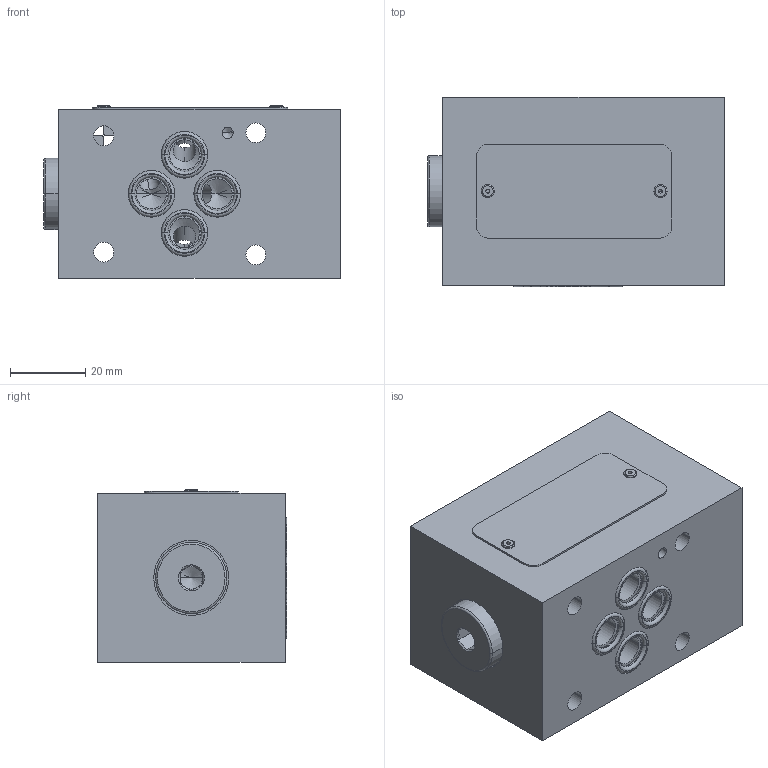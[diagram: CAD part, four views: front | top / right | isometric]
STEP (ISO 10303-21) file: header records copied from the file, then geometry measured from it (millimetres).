
FILE_DESCRIPTION((''),'2;1');
FILE_NAME('1000012769_ASM','2023-10-12T',('l.soukupova'),(''),'PRO/ENGINEER BY PARAMETRIC TECHNOLOGY CORPORATION, 2015440','PRO/ENGINEER BY PARAMETRIC TECHNOLOGY CORPORATION, 2015440','');
FILE_SCHEMA(('AUTOMOTIVE_DESIGN { 1 0 10303 214 1 1 1 1 }'));
Length unit declared in the file: millimetre
Products named in the file (9): 1000012685; RD_LABEL_25X52_159703; AF_1932_16485; ORAR00012_201524_AF20; ORAR00012_201524_AF21; ORAR00012_201524_AF22; ORAR00012_201524_AF23; VSTI_1_4_EDV; 1000012769_ASM
Assembly tree (9 placements, depth 2):
  1000012769_ASM
    1000012685
    RD_LABEL_25X52_159703
    AF_1932_16485  x2
    ORAR00012_201524_AF20
    ORAR00012_201524_AF21
    ORAR00012_201524_AF22
    ORAR00012_201524_AF23
    VSTI_1_4_EDV
Bounding box: 79 x 50.38 x 46 mm (x, y, z)
Volume: 148082.3 mm3; surface area: 35851 mm2
Topology: 9 solids, 14 shells, 266 faces, 778 edges, 620 vertices
Faces by surface type: cylinder 124, plane 52, cone 48, torus 42
Entity records: 14662 total; most frequent: CARTESIAN_POINT 3213, DIRECTION 1630, ORIENTED_EDGE 1164, PRESENTATION_STYLE_ASSIGNMENT 935, STYLED_ITEM 809, CURVE_STYLE 797, AXIS2_PLACEMENT_3D 658, EDGE_CURVE 592
